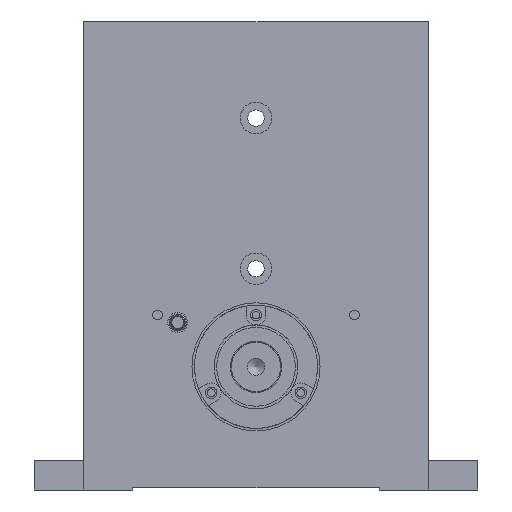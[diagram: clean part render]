
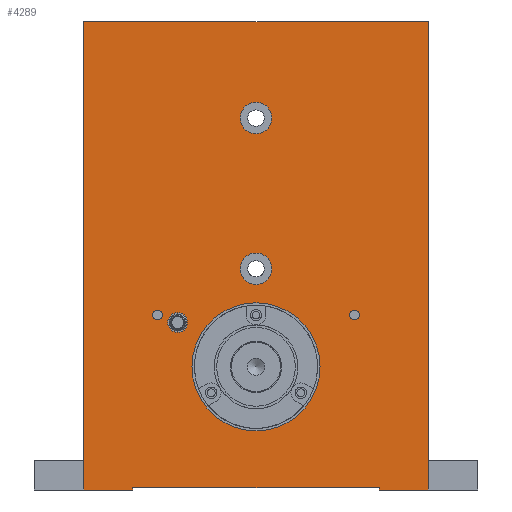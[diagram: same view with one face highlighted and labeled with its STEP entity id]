
A CAD part, left-side view. The second image highlights one B-rep face of the part: STEP entity #4289.
In plain terms, the highlighted planar face has unit normal (-1, 0, 0).
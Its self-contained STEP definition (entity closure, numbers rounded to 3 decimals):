
#162=CARTESIAN_POINT('',(-45.0,20.,31.51));
#163=VERTEX_POINT('',#162);
#164=CARTESIAN_POINT('',(-45.0,20.,32.5));
#165=DIRECTION('',(1.0,0.0,0.0));
#166=DIRECTION('',(0.0,0.0,1.0));
#167=AXIS2_PLACEMENT_3D('',#164,#165,#166);
#168=CIRCLE('',#167,0.99);
#169=EDGE_CURVE('',#163,#163,#168,.T.);
#190=CARTESIAN_POINT('',(-45.0,-20.,31.51));
#191=VERTEX_POINT('',#190);
#192=CARTESIAN_POINT('',(-45.0,-20.,32.5));
#193=DIRECTION('',(1.0,0.0,0.0));
#194=DIRECTION('',(0.0,0.0,1.0));
#195=AXIS2_PLACEMENT_3D('',#192,#193,#194);
#196=CIRCLE('',#195,0.99);
#197=EDGE_CURVE('',#191,#191,#196,.T.);
#246=CARTESIAN_POINT('',(-45.0,0.,69.3));
#247=VERTEX_POINT('',#246);
#248=CARTESIAN_POINT('',(-45.0,0.0,72.5));
#249=DIRECTION('',(1.0,0.0,0.0));
#250=DIRECTION('',(0.0,0.0,1.0));
#251=AXIS2_PLACEMENT_3D('',#248,#249,#250);
#252=CIRCLE('',#251,3.2);
#253=EDGE_CURVE('',#247,#247,#252,.T.);
#302=CARTESIAN_POINT('',(-45.0,0.,9.0));
#303=VERTEX_POINT('',#302);
#304=CARTESIAN_POINT('',(-45.0,0.0,22.0));
#305=DIRECTION('',(1.0,0.0,0.0));
#306=DIRECTION('',(0.0,0.0,1.0));
#307=AXIS2_PLACEMENT_3D('',#304,#305,#306);
#308=CIRCLE('',#307,13.0);
#309=EDGE_CURVE('',#303,#303,#308,.T.);
#1376=CARTESIAN_POINT('',(-45.0,0.,38.7));
#1377=VERTEX_POINT('',#1376);
#1378=CARTESIAN_POINT('',(-45.0,0.0,41.9));
#1379=DIRECTION('',(1.0,0.0,0.0));
#1380=DIRECTION('',(0.0,0.0,1.0));
#1381=AXIS2_PLACEMENT_3D('',#1378,#1379,#1380);
#1382=CIRCLE('',#1381,3.2);
#1383=EDGE_CURVE('',#1377,#1377,#1382,.T.);
#1432=CARTESIAN_POINT('',(-45.0,15.9,29.));
#1433=VERTEX_POINT('',#1432);
#1434=CARTESIAN_POINT('',(-45.0,15.9,31.0));
#1435=DIRECTION('',(1.0,0.0,0.0));
#1436=DIRECTION('',(0.0,0.0,1.0));
#1437=AXIS2_PLACEMENT_3D('',#1434,#1435,#1436);
#1438=CIRCLE('',#1437,2.0);
#1439=EDGE_CURVE('',#1433,#1433,#1438,.T.);
#3836=CARTESIAN_POINT('',(-45.,35.,-3.));
#3837=VERTEX_POINT('',#3836);
#3844=CARTESIAN_POINT('',(-45.,35.,92.));
#3845=VERTEX_POINT('',#3844);
#3846=CARTESIAN_POINT('',(-45.,35.,92.));
#3847=DIRECTION('',(0.0,0.0,-1.0));
#3848=VECTOR('',#3847,95.);
#3849=LINE('',#3846,#3848);
#3850=EDGE_CURVE('',#3845,#3837,#3849,.T.);
#3869=CARTESIAN_POINT('',(-45.,-35.,92.));
#3870=VERTEX_POINT('',#3869);
#3877=CARTESIAN_POINT('',(-45.,-35.,-3.));
#3878=VERTEX_POINT('',#3877);
#3879=CARTESIAN_POINT('',(-45.,-35.,-3.));
#3880=DIRECTION('',(0.0,0.0,1.0));
#3881=VECTOR('',#3880,95.);
#3882=LINE('',#3879,#3881);
#3883=EDGE_CURVE('',#3878,#3870,#3882,.T.);
#3958=CARTESIAN_POINT('',(-45.0,25.,-2.5));
#3959=VERTEX_POINT('',#3958);
#3966=CARTESIAN_POINT('',(-45.0,25.,-3.));
#3967=VERTEX_POINT('',#3966);
#3968=CARTESIAN_POINT('',(-45.0,25.,-3.));
#3969=DIRECTION('',(0.0,0.0,1.0));
#3970=VECTOR('',#3969,0.5);
#3971=LINE('',#3968,#3970);
#3972=EDGE_CURVE('',#3967,#3959,#3971,.T.);
#3998=CARTESIAN_POINT('',(-45.0,-25.,-3.));
#3999=VERTEX_POINT('',#3998);
#4006=CARTESIAN_POINT('',(-45.0,-25.,-2.5));
#4007=VERTEX_POINT('',#4006);
#4008=CARTESIAN_POINT('',(-45.0,-25.,-2.5));
#4009=DIRECTION('',(0.0,0.0,-1.0));
#4010=VECTOR('',#4009,0.5);
#4011=LINE('',#4008,#4010);
#4012=EDGE_CURVE('',#4007,#3999,#4011,.T.);
#4035=CARTESIAN_POINT('',(-45.0,25.,-2.5));
#4036=DIRECTION('',(0.0,-1.0,0.0));
#4037=VECTOR('',#4036,50.0);
#4038=LINE('',#4035,#4037);
#4039=EDGE_CURVE('',#3959,#4007,#4038,.T.);
#4142=CARTESIAN_POINT('',(-45.,-35.,-3.));
#4143=DIRECTION('',(0.0,1.0,0.0));
#4144=VECTOR('',#4143,10.);
#4145=LINE('',#4142,#4144);
#4146=EDGE_CURVE('',#3878,#3999,#4145,.T.);
#4172=CARTESIAN_POINT('',(-45.0,25.,-3.));
#4173=DIRECTION('',(0.0,1.0,0.0));
#4174=VECTOR('',#4173,10.);
#4175=LINE('',#4172,#4174);
#4176=EDGE_CURVE('',#3967,#3837,#4175,.T.);
#4251=CARTESIAN_POINT('',(-45.0,-45.,-3.));
#4252=DIRECTION('',(-1.0,0.0,0.0));
#4253=DIRECTION('',(0.0,0.0,1.0));
#4254=AXIS2_PLACEMENT_3D('',#4251,#4252,#4253);
#4255=PLANE('',#4254);
#4256=ORIENTED_EDGE('',*,*,#3972,.T.);
#4257=ORIENTED_EDGE('',*,*,#4039,.T.);
#4258=ORIENTED_EDGE('',*,*,#4012,.T.);
#4259=ORIENTED_EDGE('',*,*,#4146,.F.);
#4260=ORIENTED_EDGE('',*,*,#3883,.T.);
#4261=CARTESIAN_POINT('',(-45.,-35.,92.));
#4262=DIRECTION('',(0.0,1.0,0.0));
#4263=VECTOR('',#4262,70.0);
#4264=LINE('',#4261,#4263);
#4265=EDGE_CURVE('',#3870,#3845,#4264,.T.);
#4266=ORIENTED_EDGE('',*,*,#4265,.T.);
#4267=ORIENTED_EDGE('',*,*,#3850,.T.);
#4268=ORIENTED_EDGE('',*,*,#4176,.F.);
#4269=EDGE_LOOP('',(#4256,#4257,#4258,#4259,#4260,#4266,#4267,#4268));
#4270=FACE_OUTER_BOUND('',#4269,.T.);
#4271=ORIENTED_EDGE('',*,*,#1439,.T.);
#4272=EDGE_LOOP('',(#4271));
#4273=FACE_BOUND('',#4272,.T.);
#4274=ORIENTED_EDGE('',*,*,#1383,.T.);
#4275=EDGE_LOOP('',(#4274));
#4276=FACE_BOUND('',#4275,.T.);
#4277=ORIENTED_EDGE('',*,*,#309,.T.);
#4278=EDGE_LOOP('',(#4277));
#4279=FACE_BOUND('',#4278,.T.);
#4280=ORIENTED_EDGE('',*,*,#253,.T.);
#4281=EDGE_LOOP('',(#4280));
#4282=FACE_BOUND('',#4281,.T.);
#4283=ORIENTED_EDGE('',*,*,#197,.T.);
#4284=EDGE_LOOP('',(#4283));
#4285=FACE_BOUND('',#4284,.T.);
#4286=ORIENTED_EDGE('',*,*,#169,.T.);
#4287=EDGE_LOOP('',(#4286));
#4288=FACE_BOUND('',#4287,.T.);
#4289=ADVANCED_FACE('',(#4270,#4273,#4276,#4279,#4282,#4285,#4288),#4255,.T.);
